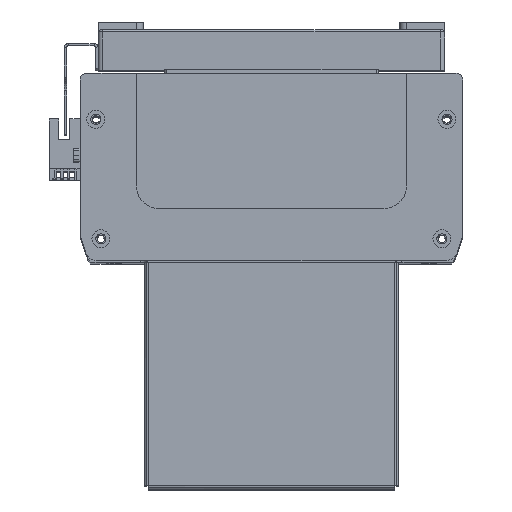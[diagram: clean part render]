
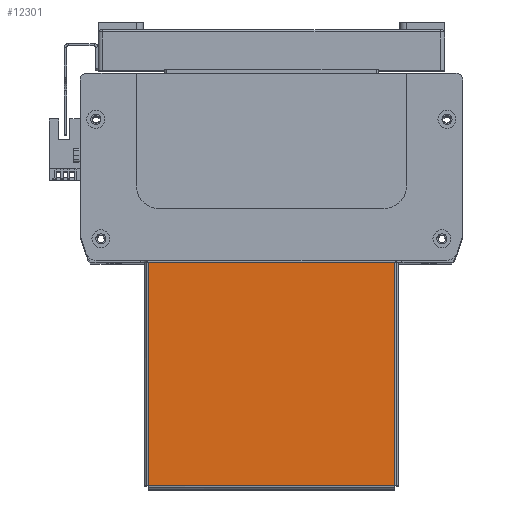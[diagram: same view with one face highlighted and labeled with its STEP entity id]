
A CAD part, top view. The second image highlights one B-rep face of the part: STEP entity #12301.
In plain terms, the highlighted planar face has unit normal (0, 0, 1).
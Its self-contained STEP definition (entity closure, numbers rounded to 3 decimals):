
#681 = FACE_OUTER_BOUND ( 'NONE', #38192, .T. ) ;
#8161 = CARTESIAN_POINT ( 'NONE',  ( 54.763, -49.263, 0. ) ) ;
#8169 = CARTESIAN_POINT ( 'NONE',  ( -54.763, -49.263, 0. ) ) ;
#8176 = CARTESIAN_POINT ( 'NONE',  ( -54.763, 50., 0. ) ) ;
#8241 = CARTESIAN_POINT ( 'NONE',  ( 54.763, 50., 0. ) ) ;
#9801 = EDGE_CURVE ( 'NONE', #44588, #44628, #14123, .T. ) ;
#9810 = EDGE_CURVE ( 'NONE', #44576, #44658, #14133, .T. ) ;
#9811 = EDGE_CURVE ( 'NONE', #44628, #44576, #14126, .T. ) ;
#9864 = EDGE_CURVE ( 'NONE', #44658, #44588, #14225, .T. ) ;
#12301 = ADVANCED_FACE ( 'NONE', ( #681 ), #39085, .T. ) ;
#14105 = VECTOR ( 'NONE', #46985, 1000. ) ;
#14114 = VECTOR ( 'NONE', #47078, 1000. ) ;
#14123 = LINE ( 'NONE', #46982, #14105 ) ;
#14126 = LINE ( 'NONE', #47031, #14114 ) ;
#14133 = LINE ( 'NONE', #46979, #14148 ) ;
#14148 = VECTOR ( 'NONE', #46933, 1000. ) ;
#14224 = VECTOR ( 'NONE', #47397, 1000. ) ;
#14225 = LINE ( 'NONE', #47382, #14224 ) ;
#34232 = AXIS2_PLACEMENT_3D ( 'NONE', #39094, #39108, #39095 ) ;
#38192 = EDGE_LOOP ( 'NONE', ( #41144, #41136, #41256, #41197 ) ) ;
#39085 = PLANE ( 'NONE',  #34232 ) ;
#39094 = CARTESIAN_POINT ( 'NONE',  ( 0., 0., 0. ) ) ;
#39095 = DIRECTION ( 'NONE',  ( 1., 0., 0. ) ) ;
#39108 = DIRECTION ( 'NONE',  ( 0., 0., 1. ) ) ;
#41136 = ORIENTED_EDGE ( 'NONE', *, *, #9811, .T. ) ;
#41144 = ORIENTED_EDGE ( 'NONE', *, *, #9801, .T. ) ;
#41197 = ORIENTED_EDGE ( 'NONE', *, *, #9864, .T. ) ;
#41256 = ORIENTED_EDGE ( 'NONE', *, *, #9810, .T. ) ;
#44576 = VERTEX_POINT ( 'NONE', #8161 ) ;
#44588 = VERTEX_POINT ( 'NONE', #8176 ) ;
#44628 = VERTEX_POINT ( 'NONE', #8169 ) ;
#44658 = VERTEX_POINT ( 'NONE', #8241 ) ;
#46933 = DIRECTION ( 'NONE',  ( 0., 1., 0. ) ) ;
#46979 = CARTESIAN_POINT ( 'NONE',  ( 54.763, -49.293, 0. ) ) ;
#46982 = CARTESIAN_POINT ( 'NONE',  ( -54.763, 50., 0. ) ) ;
#46985 = DIRECTION ( 'NONE',  ( 0., -1., 0. ) ) ;
#47031 = CARTESIAN_POINT ( 'NONE',  ( -54.793, -49.263, 0. ) ) ;
#47078 = DIRECTION ( 'NONE',  ( 1., 0., 0. ) ) ;
#47382 = CARTESIAN_POINT ( 'NONE',  ( -55.5, 50., 0. ) ) ;
#47397 = DIRECTION ( 'NONE',  ( -1., 0., 0. ) ) ;
